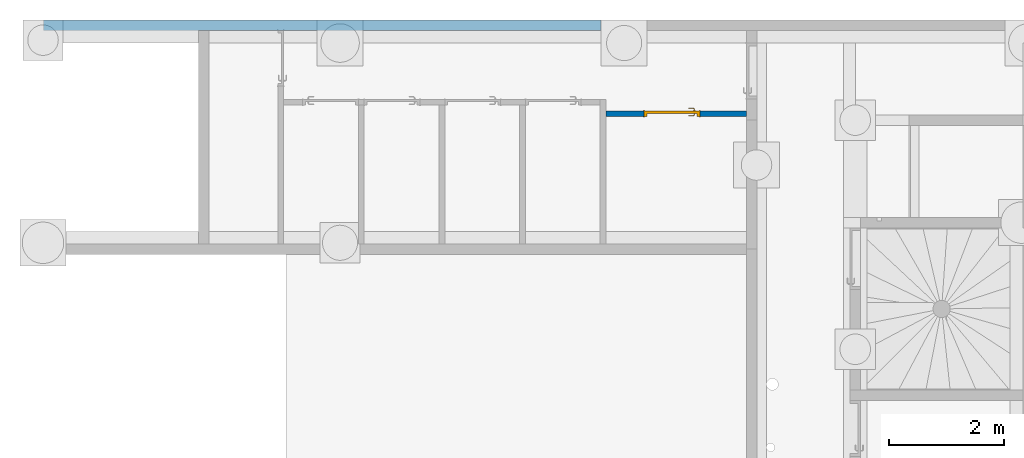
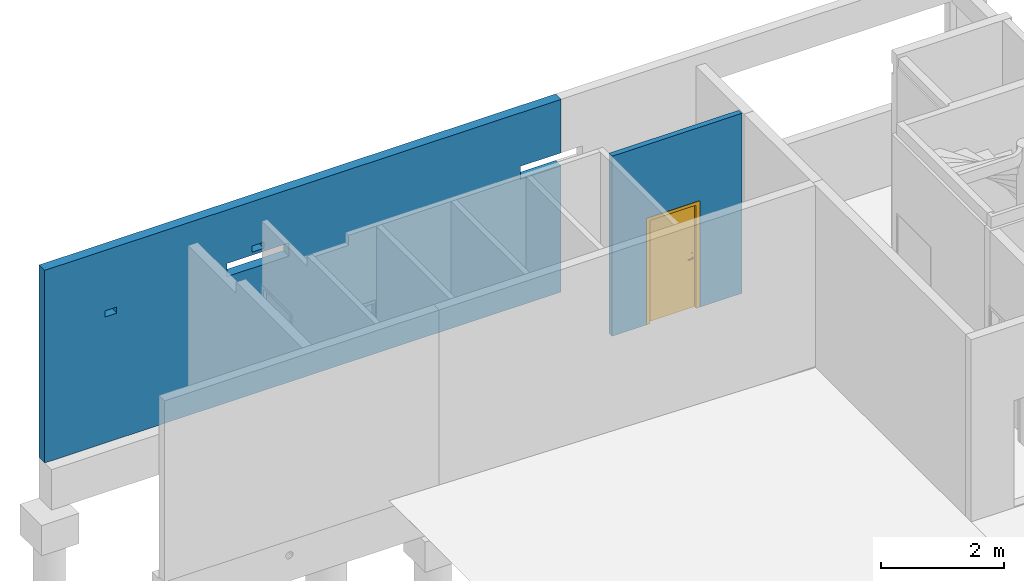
# One storey, part 7 of 14: 2 walls, 1 door, 6 openings.
"""IFC2X3 building model written with IfcOpenShell, lengths in centimetres."""

import ifcopenshell
import ifcopenshell.guid

model = None  # the IFC model being written
_history = None  # IfcOwnerHistory: only IFC2X3 demands one
_inside = {}  # id of a spatial element -> (the spatial element, [elements in it])
_under = {}  # id of a project, library or spatial element -> (it, [spatial elements below it])
_declared = {}  # id of a project -> (the project, [libraries it declares])
_typed = {}  # id of a type object -> (the type object, [elements of that type])
_made_of = {}  # id of a material, layer set ... -> (it, [elements and type objects made of it])


def new_model(schema):
    """Start an empty IFC model of exactly this schema.

    Asked for "IFC4X3", IfcOpenShell would pick the latest addendum, in which some entities
    have other attributes; the version numbers below select the first issue.
    IFC2X3 requires an IfcOwnerHistory on every rooted entity: one is made here for all.
    """
    global model, _history
    if schema == "IFC4X3":
        model = ifcopenshell.file(schema_version=(4, 3, 0, 0))
    else:
        model = ifcopenshell.file(schema=schema)
    _inside.clear()
    _under.clear()
    _declared.clear()
    _typed.clear()
    _made_of.clear()
    _history = None
    if model.schema == "IFC2X3":
        org = make("IfcOrganization", Name="unknown")
        user = make(
            "IfcPersonAndOrganization",
            ThePerson=make("IfcPerson", FamilyName="unknown"),
            TheOrganization=org,
        )
        app = make(
            "IfcApplication",
            ApplicationDeveloper=org,
            Version="unknown",
            ApplicationFullName="unknown",
            ApplicationIdentifier="unknown",
        )
        _history = make(
            "IfcOwnerHistory",
            OwningUser=user,
            OwningApplication=app,
            ChangeAction="ADDED",
            CreationDate=0,
        )
    return model


def make(cls, **values):
    """One entity of the class cls with the attributes given. An attribute that is None is left unset."""
    return model.create_entity(
        cls, **{name: value for name, value in values.items() if value is not None}
    )


def entity(cls, *values):
    """Any entity or typed value of the class cls, its attributes in the order of the schema. None: left unset."""
    e = model.create_entity(cls)
    for i, value in enumerate(values):
        if value is not None:
            e[i] = value
    return e


def rooted(cls, **values):
    """An entity with a GlobalId (a new one), such as an element, a storey or a relation."""
    return make(cls, GlobalId=ifcopenshell.guid.new(), OwnerHistory=_history, **values)


def si_unit(unit_type, name, prefix=None):
    """IfcSIUnit, for example si_unit("LENGTHUNIT", "METRE", prefix="MILLI")."""
    return make("IfcSIUnit", UnitType=unit_type, Prefix=prefix, Name=name)


def converted_unit(unit_type, name, factor, base, dimensions=None, offset=None):
    """IfcConversionBasedUnit, such as the inch: factor (a typed value) times the base unit."""
    return make(
        "IfcConversionBasedUnit"
        if offset is None
        else "IfcConversionBasedUnitWithOffset",
        ConversionOffset=offset,
        Dimensions=None
        if dimensions is None
        else entity("IfcDimensionalExponents", *dimensions),
        UnitType=unit_type,
        Name=name,
        ConversionFactor=make(
            "IfcMeasureWithUnit", ValueComponent=factor, UnitComponent=base
        ),
    )


def derived_unit(unit_type, elements):
    """IfcDerivedUnit: a product of units, each with its exponent."""
    return make(
        "IfcDerivedUnit",
        Elements=[
            make("IfcDerivedUnitElement", Unit=unit, Exponent=power)
            for unit, power in elements
        ],
        UnitType=unit_type,
    )


def assignment(units):
    """IfcUnitAssignment: the units of a project."""
    return None if units is None else make("IfcUnitAssignment", Units=units)


def point(xyz):
    """IfcCartesianPoint."""
    return None if xyz is None else make("IfcCartesianPoint", Coordinates=xyz)


def direction(xyz):
    """IfcDirection."""
    return None if xyz is None else make("IfcDirection", DirectionRatios=xyz)


def frame(location, z_axis=None, x_axis=None):
    """IfcAxis2Placement3D, a coordinate frame: its origin and axes. An axis left out is left unset."""
    return make(
        "IfcAxis2Placement3D",
        Location=point(location),
        Axis=direction(z_axis),
        RefDirection=direction(x_axis),
    )


def frame_2d(location, x_axis=None):
    """IfcAxis2Placement2D, a coordinate frame in the plane: its origin and x axis."""
    return make(
        "IfcAxis2Placement2D", Location=point(location), RefDirection=direction(x_axis)
    )


def origin():
    """The frame at (0, 0, 0) with its axes left unset."""
    return frame((0.0, 0.0, 0.0))


def place(relative_to, where):
    """IfcLocalPlacement: puts the frame where relative to a parent placement (None: the world)."""
    return make(
        "IfcLocalPlacement", PlacementRelTo=relative_to, RelativePlacement=where
    )


def context(
    kind, dimensions, precision=None, world=None, true_north=None, identifier=None
):
    """IfcGeometricRepresentationContext, for example the 3D "Model" context."""
    return make(
        "IfcGeometricRepresentationContext",
        ContextIdentifier=identifier,
        ContextType=kind,
        CoordinateSpaceDimension=dimensions,
        Precision=precision,
        WorldCoordinateSystem=world,
        TrueNorth=true_north,
    )


def subcontext(parent, identifier, kind, view, scale=None):
    """IfcGeometricRepresentationSubContext, for example "Body" below "Model"."""
    return make(
        "IfcGeometricRepresentationSubContext",
        ContextIdentifier=identifier,
        ContextType=kind,
        ParentContext=parent,
        TargetScale=scale,
        TargetView=view,
    )


def project(units=None, contexts=None):
    """IfcProject with its units and contexts."""
    return rooted(
        "IfcProject",
        Name="project",
        RepresentationContexts=contexts,
        UnitsInContext=assignment(units),
    )


def spatial(cls, under=None, at=None, **own):
    """A site, building, storey or space (cls), placed at a placement, below another one or the project."""
    s = rooted(cls, ObjectPlacement=at, **own)
    if under is not None:
        _under.setdefault(under.id(), (under, []))[1].append(s)
    return s


def profile(cls, at=None, kind="AREA", **sizes):
    """A parametric profile (cls). Its sizes go by their IFC names, for example OverallWidth=200.0."""
    return make(cls, ProfileType=kind, Position=at, **sizes)


def rectangle(**sizes):
    """IfcRectangleProfileDef."""
    return profile("IfcRectangleProfileDef", **sizes)


def extrude(swept, where, along, depth):
    """IfcExtrudedAreaSolid: the profile swept, set in the frame where, extruded along a direction by depth."""
    return make(
        "IfcExtrudedAreaSolid",
        SweptArea=swept,
        Position=where,
        ExtrudedDirection=direction(along),
        Depth=depth,
    )


def faces_of(points, faces, orient=None, outer=None):
    """IfcFace entities. A face is a list of loops; a loop is a list of indices into points, from 0.

    orient and outer hold one flag for each loop. By default every Orientation is true, the
    first loop of a face is its IfcFaceOuterBound and the others are IfcFaceBound.
    """
    made = []
    for i, loops in enumerate(faces):
        bounds = []
        for j, loop in enumerate(loops):
            is_outer = j == 0 if outer is None else outer[i][j]
            bounds.append(
                make(
                    "IfcFaceOuterBound" if is_outer else "IfcFaceBound",
                    Bound=make("IfcPolyLoop", Polygon=[points[k] for k in loop]),
                    Orientation=True if orient is None else orient[i][j],
                )
            )
        made.append(make("IfcFace", Bounds=bounds))
    return made


def faceted_brep(points, faces, orient=None, outer=None, voids=None):
    """IfcFacetedBrep: a solid bounded by flat faces; with voids (closed shells), ...WithVoids."""
    shared = [point(p) for p in points]
    hull = make("IfcClosedShell", CfsFaces=faces_of(shared, faces, orient, outer))
    if voids is None:
        return make("IfcFacetedBrep", Outer=hull)
    return make(
        "IfcFacetedBrepWithVoids",
        Outer=hull,
        Voids=[
            make(cls, CfsFaces=faces_of(shared, fs, o, b)) for cls, fs, o, b in voids
        ],
    )


def shape(context_of_items, identifier, shape_type, items):
    """IfcShapeRepresentation: the items that make up one representation, for example the "Body"."""
    return make(
        "IfcShapeRepresentation",
        ContextOfItems=context_of_items,
        RepresentationIdentifier=identifier,
        RepresentationType=shape_type,
        Items=items,
    )


def source(mapping_origin, context_of_items, identifier, shape_type, items):
    """IfcRepresentationMap: a shape defined once, which mapped items show again and again."""
    return make(
        "IfcRepresentationMap",
        MappingOrigin=mapping_origin,
        MappedRepresentation=shape(context_of_items, identifier, shape_type, items),
    )


def transform(
    local_origin,
    x_axis=None,
    y_axis=None,
    z_axis=None,
    scale=None,
    scale2=None,
    scale3=None,
    uniform=True,
):
    """IfcCartesianTransformationOperator3D, or its non-uniform kind. x_axis, y_axis, z_axis: its Axis1, 2, 3."""
    if uniform:
        return make(
            "IfcCartesianTransformationOperator3D",
            Axis1=direction(x_axis),
            Axis2=direction(y_axis),
            LocalOrigin=point(local_origin),
            Scale=scale,
            Axis3=direction(z_axis),
        )
    return make(
        "IfcCartesianTransformationOperator3DnonUniform",
        Axis1=direction(x_axis),
        Axis2=direction(y_axis),
        LocalOrigin=point(local_origin),
        Scale=scale,
        Axis3=direction(z_axis),
        Scale2=scale2,
        Scale3=scale3,
    )


def mapped(mapping_source, mapping_target):
    """IfcMappedItem: shows the shape of a source again, moved by a transform."""
    return make(
        "IfcMappedItem", MappingSource=mapping_source, MappingTarget=mapping_target
    )


def material(Name=None, Category=None):
    """IfcMaterial."""
    return make("IfcMaterial", Name=Name, Category=Category)


def material_list(materials):
    """IfcMaterialList."""
    return make("IfcMaterialList", Materials=materials)


def layer(
    of_material, thickness, ventilated=None, Name=None, Category=None, Priority=None
):
    """IfcMaterialLayer: one layer of a wall or slab, of a material (None: an air gap)."""
    return make(
        "IfcMaterialLayer",
        Material=of_material,
        LayerThickness=thickness,
        IsVentilated=ventilated,
        Name=Name,
        Category=Category,
        Priority=Priority,
    )


def layer_set(layers, Name=None):
    """IfcMaterialLayerSet."""
    return make("IfcMaterialLayerSet", MaterialLayers=layers, LayerSetName=Name)


def layer_usage(for_layer_set, set_direction, sense, offset, extent=None):
    """IfcMaterialLayerSetUsage: how a layer set lies in its element."""
    return make(
        "IfcMaterialLayerSetUsage",
        ForLayerSet=for_layer_set,
        LayerSetDirection=set_direction,
        DirectionSense=sense,
        OffsetFromReferenceLine=offset,
        ReferenceExtent=extent,
    )


def made_of(thing, what):
    """Note that an element or type object is made of a material, layer set ...; save() writes the relation."""
    if what is not None:
        _made_of.setdefault(what.id(), (what, []))[1].append(thing)
    return thing


def type_object(cls, material=None, **own):
    """A type object (cls), such as IfcWallType, which elements share."""
    return made_of(rooted(cls, **own), material)


def type_shapes(of_type, sources):
    """Give a type object the sources (RepresentationMaps) that its elements show as mapped items."""
    of_type.RepresentationMaps = sources


def element(
    cls,
    number,
    at=None,
    inside=None,
    cuts=None,
    type_object=None,
    material=None,
    context=None,
    identifier="Body",
    shape_type=None,
    held_by="IfcProductDefinitionShape",
    body=None,
    shapes=None,
    **own,
):
    """One element of the class cls, such as IfcWall. Its Tag is "e" and its number.

    at: its placement. inside: the storey or other place that contains it. cuts: it is an
    opening in that element (IfcRelVoidsElement). A single representation is given by context,
    identifier, shape_type and body (its items); several are given by shapes. held_by: the class
    of the entity that holds the representations. save() writes the other relations.
    """
    e = rooted(cls, Tag="e%d" % number, ObjectPlacement=at, **own)
    if body is not None:
        shapes = [shape(context, identifier, shape_type, body)]
    if shapes is not None:
        e.Representation = make(held_by, Representations=shapes)
    if inside is not None:
        _inside.setdefault(inside.id(), (inside, []))[1].append(e)
    if cuts is not None:
        rooted(
            "IfcRelVoidsElement", RelatingBuildingElement=cuts, RelatedOpeningElement=e
        )
    if type_object is not None:
        _typed.setdefault(type_object.id(), (type_object, []))[1].append(e)
    return made_of(e, material)


def fill(opening, filler):
    """IfcRelFillsElement: the door or window that sits in an opening."""
    return rooted(
        "IfcRelFillsElement",
        RelatingOpeningElement=opening,
        RelatedBuildingElement=filler,
    )


def aggregate(whole, parts):
    """IfcRelAggregates: a whole, such as a stair, and the parts it consists of."""
    return rooted("IfcRelAggregates", RelatingObject=whole, RelatedObjects=parts)


def save(model, path):
    """Write the relations noted so far, then the file.

    IfcRelAggregates (storeys below a building ...), IfcRelContainedInSpatialStructure (elements
    in a storey), IfcRelDefinesByType, IfcRelAssociatesMaterial and IfcRelDeclares: one each for
    every whole, place, type object, material and project.
    """
    for whole, parts in _under.values():
        aggregate(whole, parts)
    for where, things in _inside.values():
        rooted(
            "IfcRelContainedInSpatialStructure",
            RelatedElements=things,
            RelatingStructure=where,
        )
    for kind, things in _typed.values():
        rooted("IfcRelDefinesByType", RelatedObjects=things, RelatingType=kind)
    for what, things in _made_of.values():
        rooted("IfcRelAssociatesMaterial", RelatedObjects=things, RelatingMaterial=what)
    for by, libraries in _declared.values():
        rooted("IfcRelDeclares", RelatingContext=by, RelatedDefinitions=libraries)
    model.write(path)


model = new_model("IFC2X3")

# Units and contexts
model_context = context("Model", 3, precision=0.001, world=origin(), true_north=direction((6.12303176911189e-17, 1.0)))
body_context = subcontext(model_context, "Body", "Model", "MODEL_VIEW")
ifc_project = project(units=[si_unit("LENGTHUNIT", "METRE", prefix="CENTI"), si_unit("AREAUNIT", "SQUARE_METRE"), si_unit("VOLUMEUNIT", "CUBIC_METRE"), converted_unit("PLANEANGLEUNIT", "DEGREE", entity("IfcRatioMeasure", 0.0174532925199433), si_unit("PLANEANGLEUNIT", "RADIAN"), dimensions=[0, 0, 0, 0, 0, 0, 0]), si_unit("MASSUNIT", "GRAM", prefix="KILO"), derived_unit("MASSDENSITYUNIT", [(si_unit("MASSUNIT", "GRAM", prefix="KILO"), 1), (si_unit("LENGTHUNIT", "METRE"), -3)]), si_unit("TIMEUNIT", "SECOND"), si_unit("FREQUENCYUNIT", "HERTZ"), si_unit("THERMODYNAMICTEMPERATUREUNIT", "DEGREE_CELSIUS"), derived_unit("THERMALTRANSMITTANCEUNIT", [(si_unit("MASSUNIT", "GRAM", prefix="KILO"), 1), (si_unit("THERMODYNAMICTEMPERATUREUNIT", "KELVIN"), -1), (si_unit("TIMEUNIT", "SECOND"), -3)]), derived_unit("VOLUMETRICFLOWRATEUNIT", [(si_unit("LENGTHUNIT", "METRE"), 3), (si_unit("TIMEUNIT", "SECOND"), -1)]), si_unit("ELECTRICCURRENTUNIT", "AMPERE"), si_unit("ELECTRICVOLTAGEUNIT", "VOLT"), si_unit("POWERUNIT", "WATT"), si_unit("FORCEUNIT", "NEWTON"), si_unit("ILLUMINANCEUNIT", "LUX"), si_unit("LUMINOUSFLUXUNIT", "LUMEN"), si_unit("LUMINOUSINTENSITYUNIT", "CANDELA"), derived_unit("USERDEFINED", [(si_unit("MASSUNIT", "GRAM", prefix="KILO"), -1), (si_unit("LENGTHUNIT", "METRE"), -2), (si_unit("TIMEUNIT", "SECOND"), 3), (si_unit("LUMINOUSFLUXUNIT", "LUMEN"), 1)]), derived_unit("LINEARVELOCITYUNIT", [(si_unit("LENGTHUNIT", "METRE"), 1), (si_unit("TIMEUNIT", "SECOND"), -1)]), si_unit("PRESSUREUNIT", "PASCAL"), derived_unit("USERDEFINED", [(si_unit("LENGTHUNIT", "METRE"), -2), (si_unit("MASSUNIT", "GRAM", prefix="KILO"), 1), (si_unit("TIMEUNIT", "SECOND"), -2)])], contexts=[model_context])

# Site, building, storey
site_placement = place(None, origin())
site = spatial("IfcSite", under=ifc_project, at=site_placement, Name="Default", CompositionType="ELEMENT")
building_placement = place(site_placement, origin())
building = spatial("IfcBuilding", under=site, at=building_placement, Name="CAGE 03", CompositionType="ELEMENT")
storey_placement = place(building_placement, frame((0.0, 0.0, -42.0)))
storey = spatial("IfcBuildingStorey", under=building, at=storey_placement, Name="+3.58", CompositionType="ELEMENT", Elevation=-42.0000000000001)

# Wall, openings
ifc_material_1 = material(Name="Béton, C25/30")
ifc_layer_1 = layer(ifc_material_1, 18.0)
ifc_layer_set_1 = layer_set([ifc_layer_1], Name="Mur de base:Voile BA 18")
ifc_layer_usage_1 = layer_usage(ifc_layer_set_1, "AXIS2", "POSITIVE", -9.0)
wall_type_1 = type_object("IfcWallType", Name="Mur de base:Voile BA 18", PredefinedType="STANDARD", material=ifc_layer_set_1)
wall_1_placement = place(storey_placement, frame((9757.86582014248, 5284.66066607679, 0.0), z_axis=(0.0, 0.0, 1.0), x_axis=(-1.0, 0.0, 0.0)))
wall_1 = element("IfcWallStandardCase", 1, at=wall_1_placement, inside=storey, type_object=wall_type_1, material=ifc_layer_usage_1, Name="Mur de base:Voile BA 18", ObjectType="Mur de base:Voile BA 18", context=body_context, shape_type="SweptSolid", body=[
    extrude(rectangle(XDim=968.500000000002, YDim=17.9999999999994, at=frame_2d((484.250000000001, -4.88498130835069e-14), x_axis=(-1.0, 0.0))), origin(), (0.0, 0.0, 1.0), 382.0),
])
opening_1_placement = place(storey_placement, frame((9757.86582014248, 5284.66066607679, 0.0), z_axis=(0.0, 0.0, 1.0), x_axis=(-1.0, 0.0, 0.0)))
element("IfcOpeningElement", 2, at=opening_1_placement, cuts=wall_1, Name="Mur de base:Voile BA 18:1", ObjectType="Opening", context=body_context, shape_type="SweptSolid", body=[
    extrude(rectangle(XDim=18.0000000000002, YDim=21.9999999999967, at=frame_2d((2.16537898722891e-12, 0.0), x_axis=(1.0, 0.0))), frame((844.499999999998, 0.0, 250.0), z_axis=(0.0, 0.0, 1.0), x_axis=(0.0, 1.0, 0.0)), (0.0, 0.0, 1.0), 11.9999999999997),
])
opening_2_placement = place(storey_placement, frame((9757.86582014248, 5284.66066607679, 0.0), z_axis=(0.0, 0.0, 1.0), x_axis=(-1.0, 0.0, 0.0)))
element("IfcOpeningElement", 3, at=opening_2_placement, cuts=wall_1, Name="Mur de base:Voile BA 18:2", ObjectType="Opening", context=body_context, shape_type="SweptSolid", body=[
    extrude(rectangle(XDim=18.0000000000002, YDim=21.9999999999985, at=frame_2d((4.76507722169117e-12, -8.65973959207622e-13), x_axis=(1.0, 0.0))), frame((568.500000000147, 0.0, 282.0), z_axis=(0.0, 0.0, 1.0), x_axis=(0.0, 1.0, 0.0)), (0.0, 0.0, 1.0), 12.0),
])
opening_3_placement = place(wall_1_placement, origin())
element("IfcOpeningElement", 4, at=opening_3_placement, cuts=wall_1, Name="Mur de base:Voile BA 18", ObjectType="Opening", context=body_context, shape_type="SweptSolid", body=[
    extrude(rectangle(XDim=210.000000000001, YDim=9.99999999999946, at=frame_2d((-8.66418048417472e-13, -7.105427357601e-15), x_axis=(0.0, 1.0))), frame((556.500000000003, 9.0, 105.0), z_axis=(0.0, 1.0, 0.0), x_axis=(1.0, 0.0, 0.0)), (0.0, 0.0, 1.0), 96.9999999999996),
])
opening_4_placement = place(wall_1_placement, frame((9757.86582014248, 5284.66066607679, -358.0), z_axis=(0.0, 0.0, 1.0), x_axis=(-1.0, 0.0, 0.0)))
element("IfcOpeningElement", 5, at=opening_4_placement, cuts=wall_1, Name="Mur de base:Voile BA 18", ObjectType="Opening", context=body_context, shape_type="SweptSolid", body=[
    extrude(rectangle(XDim=25.9999999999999, YDim=116.0, at=frame_2d((1.33226762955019e-14, 8.66862137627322e-13), x_axis=(1.0, 0.0))), frame((9739.36582014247, 5428.06066607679, 621.0), z_axis=(0.0, -1.0, 0.0), x_axis=(0.0, 0.0, -1.0)), (0.0, 0.0, 1.0), 304.8),
])
opening_5_placement = place(wall_1_placement, frame((9757.86582014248, 5284.66066607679, -358.0), z_axis=(0.0, 0.0, 1.0), x_axis=(-1.0, 0.0, 0.0)))
element("IfcOpeningElement", 6, at=opening_5_placement, cuts=wall_1, Name="Mur de base:Voile BA 18", ObjectType="Opening", context=body_context, shape_type="SweptSolid", body=[
    extrude(rectangle(XDim=25.9999999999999, YDim=116.0, at=frame_2d((1.33226762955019e-14, 8.66862137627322e-13), x_axis=(1.0, 0.0))), frame((9189.36582014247, 5428.06066607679, 621.0), z_axis=(0.0, -1.0, 0.0), x_axis=(0.0, 0.0, -1.0)), (0.0, 0.0, 1.0), 304.8),
])

# Wall, opening, door
ifc_material_2 = material(Name="Bloc béton")
ifc_layer_2 = layer(ifc_material_2, 10.0)
ifc_layer_set_2 = layer_set([ifc_layer_2], Name="Mur de base:Int. Parpaing 100 mm")
ifc_layer_usage_2 = layer_usage(ifc_layer_set_2, "AXIS2", "NEGATIVE", 5.0)
wall_type_2 = type_object("IfcWallType", Name="Mur de base:Int. Parpaing 100 mm", PredefinedType="STANDARD", material=ifc_layer_set_2)
wall_2_placement = place(storey_placement, frame((9766.36582014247, 5130.66066607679, 0.0)))
wall_2 = element("IfcWallStandardCase", 7, at=wall_2_placement, inside=storey, type_object=wall_type_2, material=ifc_layer_usage_2, Name="Mur de base:Int. Parpaing 100 mm", ObjectType="Mur de base:Int. Parpaing 100 mm", context=body_context, shape_type="SweptSolid", body=[
    extrude(rectangle(XDim=244.000000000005, YDim=9.99999999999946, at=frame_2d((122.000000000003, 1.77635683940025e-14), x_axis=(-1.0, 0.0))), origin(), (0.0, 0.0, 1.0), 357.0),
])
opening_6_placement = place(wall_2_placement, frame((66.0, -5.0, 0.0)))
opening_6 = element("IfcOpeningElement", 8, at=opening_6_placement, cuts=wall_2, Name="Int. Simple:HB93:1", ObjectType="Opening", context=body_context, shape_type="SweptSolid", body=[
    extrude(rectangle(XDim=210.000000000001, YDim=96.9999999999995, at=frame_2d((105.000000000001, 48.4999999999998), x_axis=(1.0, 0.0))), frame((0.0, 0.0, 0.0), z_axis=(0.0, 1.0, 0.0), x_axis=(0.0, 0.0, 1.0)), (0.0, 0.0, 1.0), 10.0),
])
ifc_material_3 = material(Name="Finition Peinture - Blanc satiné")
ifc_material_4 = material(Name="Bois - Panneau de porte")
ifc_material_5 = material(Name="Bois - Cadre de porte")
ifc_material_list_1 = material_list([ifc_material_3, ifc_material_4, ifc_material_5])
ifc_material_list_2 = material_list([ifc_material_3, ifc_material_4, ifc_material_5])
door_style = type_object("IfcDoorStyle", Name="HB93", ConstructionType="NOTDEFINED", OperationType="SINGLE_SWING_LEFT", ParameterTakesPrecedence=False, Sizeable=False, material=ifc_material_list_2)
shared_shape = source(origin(), body_context, "Body", "Brep", [
    faceted_brep([(10.5352761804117, -0.500000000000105, 86.6003983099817), (11.5000000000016, -0.500000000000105, 87.0), (11.5000000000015, -0.500000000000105, 108.0), (10.5352761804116, -0.500000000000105, 108.399601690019), (9.50000000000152, -0.500000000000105, 108.535898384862), (8.46472381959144, -0.500000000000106, 108.399601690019), (7.50000000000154, -0.500000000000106, 108.0), (7.50000000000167, -0.500000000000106, 87.0), (8.46472381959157, -0.500000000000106, 86.6003983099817), (9.50000000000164, -0.500000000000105, 86.464101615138), (10.5352761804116, 0.0, 108.399601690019), (11.5000000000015, 0.0, 108.0), (11.5000000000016, 0.0, 87.0), (10.5352761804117, 0.0, 86.6003983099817), (9.50000000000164, 0.0, 86.464101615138), (8.46472381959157, 0.0, 86.6003983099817), (7.50000000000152, 0.0, 87.0), (7.50000000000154, 0.0, 108.0), (8.46472381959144, 0.0, 108.399601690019), (9.50000000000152, 0.0, 108.535898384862)], [[[0, 1, 2, 3, 4, 5, 6, 7, 8, 9]], [[10, 11, 12, 13, 14, 15, 16, 17, 18, 19]], [[16, 15, 8, 7]], [[8, 15, 14, 9]], [[14, 13, 0, 9]], [[13, 12, 1, 0]], [[2, 1, 12, 11]], [[11, 10, 3, 2]], [[3, 10, 19, 4]], [[19, 18, 5, 4]], [[18, 17, 6, 5]], [[7, 6, 17, 16]]]),
    faceted_brep([(10.5352761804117, 4.0, 86.6003983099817), (11.5000000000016, 4.0, 87.0), (11.5000000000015, 4.0, 108.0), (10.5352761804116, 4.0, 108.399601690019), (9.50000000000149, 4.0, 108.535898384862), (8.46472381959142, 4.0, 108.399601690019), (7.50000000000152, 4.0, 108.0), (7.50000000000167, 4.0, 87.0), (8.46472381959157, 4.0, 86.6003983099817), (9.50000000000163, 4.0, 86.464101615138), (10.5352761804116, 4.49999999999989, 108.399601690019), (11.5000000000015, 4.49999999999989, 108.0), (11.5000000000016, 4.49999999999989, 87.0), (10.5352761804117, 4.49999999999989, 86.6003983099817), (9.50000000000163, 4.49999999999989, 86.464101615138), (8.46472381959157, 4.49999999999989, 86.6003983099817), (7.50000000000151, 4.49999999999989, 87.0), (7.50000000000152, 4.49999999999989, 108.0), (8.46472381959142, 4.49999999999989, 108.399601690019), (9.50000000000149, 4.49999999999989, 108.535898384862)], [[[0, 1, 2, 3, 4, 5, 6, 7, 8, 9]], [[10, 11, 12, 13, 14, 15, 16, 17, 18, 19]], [[11, 10, 3, 2]], [[3, 10, 19, 4]], [[19, 18, 5, 4]], [[18, 17, 6, 5]], [[7, 6, 17, 16]], [[16, 15, 8, 7]], [[8, 15, 14, 9]], [[14, 13, 0, 9]], [[13, 12, 1, 0]], [[2, 1, 12, 11]]]),
    faceted_brep([(9.29747013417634, -0.500000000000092, 100.778044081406), (9.70252986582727, -0.50000000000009, 100.778044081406), (10.1000000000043, -0.500000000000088, 100.699999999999), (10.1000000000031, -0.500000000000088, 99.3000000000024), (9.70252986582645, -0.50000000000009, 99.2219559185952), (9.29747013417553, -0.500000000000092, 99.221955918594), (8.89999999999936, -0.500000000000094, 99.2999999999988), (8.89999999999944, -0.500000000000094, 100.7), (8.89999999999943, -3.26509507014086, 100.7), (9.29747013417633, -3.10045754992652, 100.778044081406), (10.9023585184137, -4.70534593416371, 100.778044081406), (11.0701397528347, -4.30028620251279, 100.778044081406), (9.70252986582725, -2.93267631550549, 100.778044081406), (10.1000000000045, -2.76803879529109, 100.7), (10.1000000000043, -2.76803879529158, 99.3000000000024), (9.70252986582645, -2.93267631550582, 99.2219559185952), (11.0701397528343, -4.30028620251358, 99.2219559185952), (10.9023585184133, -4.70534593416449, 99.221955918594), (9.29747013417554, -3.10045754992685, 99.221955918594), (8.89999999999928, -3.26509507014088, 99.2999999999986), (10.7377209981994, -5.10281606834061, 100.7), (11.2347772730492, -3.90281606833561, 100.7), (11.2347772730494, -3.90281606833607, 99.3000000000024), (10.7377209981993, -5.10281606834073, 99.2999999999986), (19.5018640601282, -5.1028160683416, 99.2999999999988), (19.5018640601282, -4.70534593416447, 99.221955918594), (19.5018640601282, -4.30028620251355, 99.2219559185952), (19.5018640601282, -3.90281606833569, 99.3000000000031), (19.5018640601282, -3.90281606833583, 100.7), (19.5018640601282, -4.30028620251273, 100.778044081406), (19.5018640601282, -4.70534593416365, 100.778044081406), (19.5018640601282, -5.10281606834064, 100.699999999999), (14.7307697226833, -5.10281606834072, 100.7), (15.28600190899, -4.5028160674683, 100.78786867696), (15.3683206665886, -3.9028160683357, 100.7), (15.3683206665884, -3.90281606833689, 99.3000000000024), (15.2860018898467, -4.50281607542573, 99.2121313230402), (14.7307700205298, -5.10281606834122, 99.2999999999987)], [[[0, 1, 2, 3, 4, 5, 6, 7]], [[8, 9, 0, 7]], [[9, 10, 11, 12, 1, 0]], [[12, 13, 2, 1]], [[3, 2, 13, 14]], [[14, 15, 4, 3]], [[15, 16, 17, 18, 5, 4]], [[18, 19, 6, 5]], [[7, 6, 19, 8]], [[20, 10, 9, 8]], [[11, 21, 13, 12]], [[14, 13, 21, 22]], [[22, 16, 15, 14]], [[17, 23, 19, 18]], [[8, 19, 23, 20]], [[24, 25, 26, 27, 28, 29, 30, 31]], [[32, 30, 33]], [[31, 30, 32]], [[10, 20, 32]], [[33, 34, 11]], [[21, 11, 34]], [[34, 29, 28]], [[30, 29, 33]], [[29, 34, 33]], [[10, 32, 33]], [[10, 33, 11]], [[22, 21, 34, 28, 27, 35]], [[35, 26, 36]], [[37, 36, 25]], [[22, 35, 16]], [[35, 27, 26]], [[24, 37, 25]], [[23, 17, 37]], [[37, 17, 36]], [[17, 16, 36]], [[16, 35, 36]], [[25, 36, 26]], [[20, 23, 37, 24, 31, 32]]]),
    faceted_brep([(9.29747013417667, 4.49999999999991, 100.778044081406), (8.89999999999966, 4.4999999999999, 100.7), (8.89999999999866, 4.4999999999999, 99.2999999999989), (9.2974701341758, 4.49999999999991, 99.221955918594), (9.70252986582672, 4.49999999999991, 99.2219559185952), (10.1000000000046, 4.49999999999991, 99.3000000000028), (10.1000000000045, 4.49999999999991, 100.7), (9.70252986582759, 4.49999999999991, 100.778044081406), (10.1000000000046, 6.7485204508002, 99.3000000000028), (10.1000000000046, 6.74852045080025, 100.7), (9.70252986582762, 6.91315797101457, 100.778044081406), (11.0838906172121, 8.29451872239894, 100.778044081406), (10.9161093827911, 8.69957845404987, 100.778044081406), (9.29747013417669, 7.0809392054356, 100.778044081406), (8.89999999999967, 7.24557672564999, 100.7), (8.89999999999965, 7.2455767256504, 99.2999999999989), (9.29747013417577, 7.08093920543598, 99.221955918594), (10.9161093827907, 8.69957845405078, 99.221955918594), (11.0838906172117, 8.29451872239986, 99.2219559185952), (9.7025298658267, 6.91315797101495, 99.2219559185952), (11.2485281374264, 7.89704858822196, 99.3000000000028), (11.2485281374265, 7.89704858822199, 100.7), (10.7514718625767, 9.09704858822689, 100.7), (10.751471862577, 9.0970485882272, 99.2999999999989), (19.504578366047, 7.89704858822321, 99.3000000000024), (19.504578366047, 8.29451872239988, 99.2219559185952), (19.504578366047, 8.6995784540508, 99.221955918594), (19.504578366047, 9.09704858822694, 99.2999999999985), (19.504578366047, 9.09704858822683, 100.7), (19.504578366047, 8.69957845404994, 100.778044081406), (19.504578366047, 8.29451872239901, 100.778044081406), (19.504578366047, 7.89704858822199, 100.7), (15.3765520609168, 7.89704858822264, 99.3000000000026), (15.3765532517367, 7.89704858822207, 100.7), (15.294234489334, 8.49704858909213, 100.78786867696), (14.7445205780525, 9.09704858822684, 100.7), (14.7445204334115, 9.09704858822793, 99.2999999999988), (15.2942345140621, 8.49704858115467, 99.2121313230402)], [[[0, 1, 2, 3, 4, 5, 6, 7]], [[6, 5, 8, 9]], [[9, 10, 7, 6]], [[10, 11, 12, 13, 0, 7]], [[13, 14, 1, 0]], [[2, 1, 14, 15]], [[15, 16, 3, 2]], [[16, 17, 18, 19, 4, 3]], [[19, 8, 5, 4]], [[9, 8, 20, 21]], [[21, 11, 10, 9]], [[12, 22, 14, 13]], [[15, 14, 22, 23]], [[23, 17, 16, 15]], [[18, 20, 8, 19]], [[24, 25, 26, 27, 28, 29, 30, 31]], [[21, 20, 32, 24, 31, 33]], [[33, 30, 34]], [[35, 34, 29]], [[21, 33, 11]], [[33, 31, 30]], [[28, 35, 29]], [[22, 12, 35]], [[35, 12, 34]], [[12, 11, 34]], [[11, 33, 34]], [[29, 34, 30]], [[22, 35, 28, 27, 36, 23]], [[36, 26, 37]], [[27, 26, 36]], [[17, 23, 36]], [[37, 32, 18]], [[20, 18, 32]], [[32, 25, 24]], [[26, 25, 37]], [[25, 32, 37]], [[17, 36, 37]], [[17, 37, 18]]]),
    faceted_brep([(3.50000000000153, 4.0, 206.5), (93.5000000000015, 4.0, 206.5), (93.5000000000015, 4.0, 0.0), (3.50000000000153, 4.0, 0.0), (3.50000000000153, 0.0, 206.5), (3.50000000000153, 0.0, 0.0), (93.5000000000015, 0.0, 0.0), (93.5000000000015, 0.0, 206.5)], [[[0, 1, 2, 3]], [[4, 5, 6, 7]], [[1, 0, 4, 7]], [[2, 1, 7, 6]], [[3, 2, 6, 5]], [[0, 3, 5, 4]]]),
    faceted_brep([(0.0, 0.0, 0.0), (0.0, 10.0, 0.0), (5.0, 10.0, 0.0), (5.0, 4.0, 0.0), (3.50000000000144, 4.0, 0.0), (3.50000000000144, 0.0, 0.0), (0.0, 0.0, 210.0), (0.0, 10.0, 210.0), (97.0, 10.0, 210.0), (97.0, 10.0, 0.0), (92.0, 10.0, 0.0), (92.0, 10.0, 205.0), (5.0, 10.0, 205.0), (5.0, 4.0, 205.0), (92.0, 4.0, 205.0), (92.0, 4.0, 0.0), (93.4999999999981, 4.0, 0.0), (93.4999999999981, 4.0, 206.5), (3.50000000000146, 4.0, 206.5), (3.50000000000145, 0.0, 206.5), (93.4999999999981, 0.0, 206.5), (93.4999999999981, 0.0, 0.0), (97.0, 0.0, 0.0), (97.0, 0.0, 210.0)], [[[0, 1, 2, 3, 4, 5]], [[1, 0, 6, 7]], [[2, 1, 7, 8, 9, 10, 11, 12]], [[3, 2, 12, 13]], [[4, 3, 13, 14, 15, 16, 17, 18]], [[5, 4, 18, 19]], [[0, 5, 19, 20, 21, 22, 23, 6]], [[8, 23, 22, 9]], [[22, 21, 16, 15, 10, 9]], [[14, 11, 10, 15]], [[20, 17, 16, 21]], [[7, 6, 23, 8]], [[13, 12, 11, 14]], [[19, 18, 17, 20]]]),
    faceted_brep([(1.5, 10.0, 0.0), (-1.49999999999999, 10.0, 0.0), (-1.49999999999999, 10.5000000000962, 0.0), (1.5, 10.5000000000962, 0.0), (1.5, 10.0, 208.500000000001), (95.4999999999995, 10.0, 208.500000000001), (95.4999999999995, 10.0, 0.0), (98.4999999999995, 10.0, 0.0), (98.4999999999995, 10.0, 211.500000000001), (-1.49999999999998, 10.0, 211.500000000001), (-1.49999999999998, 10.5000000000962, 211.500000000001), (98.4999999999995, 10.5000000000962, 211.500000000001), (98.4999999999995, 10.5000000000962, 0.0), (95.4999999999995, 10.5000000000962, 0.0), (95.4999999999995, 10.5000000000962, 208.500000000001), (1.50000000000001, 10.5000000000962, 208.500000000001)], [[[0, 1, 2, 3]], [[1, 0, 4, 5, 6, 7, 8, 9]], [[2, 1, 9, 10]], [[3, 2, 10, 11, 12, 13, 14, 15]], [[0, 3, 15, 4]], [[6, 13, 12, 7]], [[5, 14, 13, 6]], [[11, 8, 7, 12]], [[10, 9, 8, 11]], [[4, 15, 14, 5]]]),
    faceted_brep([(-1.49999999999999, -0.5, 0.0), (1.5, -0.5, 0.0), (1.5, -0.5, 208.500000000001), (95.4999999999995, -0.5, 208.500000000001), (95.4999999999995, -0.5, 0.0), (98.4999999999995, -0.5, 0.0), (98.4999999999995, -0.5, 211.500000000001), (-1.49999999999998, -0.5, 211.500000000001), (-1.49999999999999, 0.0, 0.0), (-1.49999999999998, 0.0, 211.500000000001), (1.5, 0.0, 0.0), (98.4999999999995, 0.0, 211.500000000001), (98.4999999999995, 0.0, 0.0), (95.4999999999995, 0.0, 0.0), (95.4999999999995, 0.0, 208.500000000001), (1.50000000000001, 0.0, 208.500000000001)], [[[0, 1, 2, 3, 4, 5, 6, 7]], [[8, 0, 7, 9]], [[10, 8, 9, 11, 12, 13, 14, 15]], [[1, 10, 15, 2]], [[3, 14, 13, 4]], [[11, 6, 5, 12]], [[9, 7, 6, 11]], [[2, 15, 14, 3]], [[4, 13, 12, 5]], [[1, 0, 8, 10]]]),
])
type_shapes(door_style, [shared_shape])
door_placement = place(opening_6_placement, frame((97.0, 10.0, 0.0), z_axis=(0.0, 0.0, 1.0), x_axis=(-1.0, 0.0, 0.0)))
door = element("IfcDoor", 9, at=door_placement, inside=storey, type_object=door_style, material=ifc_material_list_1, Name="Int. Simple:HB93", ObjectType="HB93", OverallHeight=210.000000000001, OverallWidth=96.9999999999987, context=body_context, shape_type="MappedRepresentation", body=[
    mapped(shared_shape, transform((0.0, 0.0, 0.0), scale=1.0)),
])
fill(opening_6, door)

save(model, "model.ifc")
